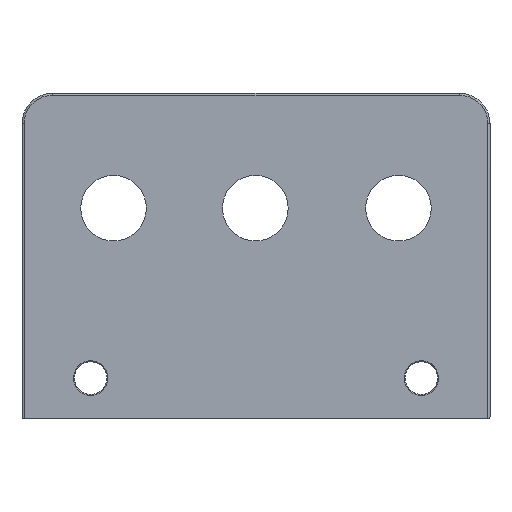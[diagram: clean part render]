
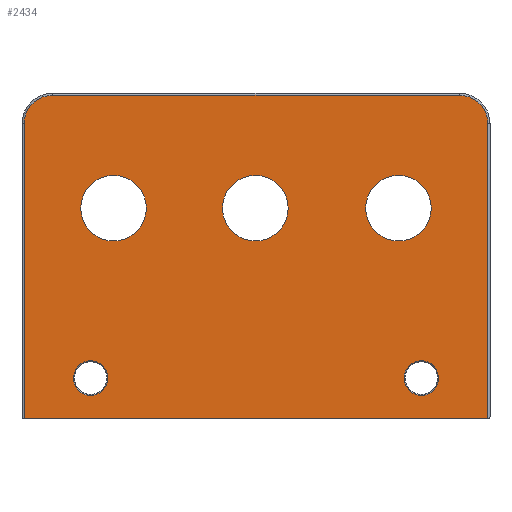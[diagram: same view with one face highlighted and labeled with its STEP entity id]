
A CAD part, front view. The second image highlights one B-rep face of the part: STEP entity #2434.
In plain terms, the highlighted planar face has unit normal (0, -1, 0).
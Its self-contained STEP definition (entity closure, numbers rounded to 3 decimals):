
#10 = VERTEX_POINT ( 'NONE', #2271 ) ;
#31 = AXIS2_PLACEMENT_3D ( 'NONE', #2425, #2929, #1745 ) ;
#63 = ORIENTED_EDGE ( 'NONE', *, *, #1422, .T. ) ;
#76 = CIRCLE ( 'NONE', #2748, 3.225 ) ;
#143 = DIRECTION ( 'NONE',  ( 0., 0., 1. ) ) ;
#145 = ORIENTED_EDGE ( 'NONE', *, *, #2176, .T. ) ;
#151 = ORIENTED_EDGE ( 'NONE', *, *, #2001, .T. ) ;
#153 = CARTESIAN_POINT ( 'NONE',  ( 9., -1.5, 20.7 ) ) ;
#163 = CARTESIAN_POINT ( 'NONE',  ( 39.25, -1.5, 4. ) ) ;
#205 = VERTEX_POINT ( 'NONE', #377 ) ;
#237 = EDGE_CURVE ( 'NONE', #573, #2158, #76, .T. ) ;
#252 = DIRECTION ( 'NONE',  ( -1., 0., 0. ) ) ;
#281 = CIRCLE ( 'NONE', #2002, 1.7 ) ;
#284 = CIRCLE ( 'NONE', #2612, 3.225 ) ;
#287 = DIRECTION ( 'NONE',  ( 0., 0., 1. ) ) ;
#305 = VERTEX_POINT ( 'NONE', #2336 ) ;
#325 = CARTESIAN_POINT ( 'NONE',  ( 0.2, -1.5, 0. ) ) ;
#355 = DIRECTION ( 'NONE',  ( 1., 0., 0. ) ) ;
#377 = CARTESIAN_POINT ( 'NONE',  ( 45.8, -1.5, 0. ) ) ;
#382 = EDGE_CURVE ( 'NONE', #305, #1889, #2372, .T. ) ;
#394 = EDGE_LOOP ( 'NONE', ( #1709, #2887 ) ) ;
#466 = VERTEX_POINT ( 'NONE', #1029 ) ;
#467 = FACE_BOUND ( 'NONE', #394, .T. ) ;
#494 = VERTEX_POINT ( 'NONE', #325 ) ;
#496 = CARTESIAN_POINT ( 'NONE',  ( 3., -1.5, 29. ) ) ;
#508 = VERTEX_POINT ( 'NONE', #2233 ) ;
#530 = AXIS2_PLACEMENT_3D ( 'NONE', #2942, #2494, #2241 ) ;
#538 = DIRECTION ( 'NONE',  ( 0., -1., 0. ) ) ;
#573 = VERTEX_POINT ( 'NONE', #2765 ) ;
#575 = CARTESIAN_POINT ( 'NONE',  ( 0., -1.5, 0. ) ) ;
#603 = DIRECTION ( 'NONE',  ( 0., 0., 1. ) ) ;
#613 = DIRECTION ( 'NONE',  ( 0., 0., 1. ) ) ;
#629 = VERTEX_POINT ( 'NONE', #1482 ) ;
#634 = FACE_OUTER_BOUND ( 'NONE', #2424, .T. ) ;
#657 = ORIENTED_EDGE ( 'NONE', *, *, #2476, .F. ) ;
#659 = DIRECTION ( 'NONE',  ( 0., 1., 0. ) ) ;
#667 = VECTOR ( 'NONE', #252, 1000. ) ;
#681 = AXIS2_PLACEMENT_3D ( 'NONE', #1645, #1247, #2609 ) ;
#740 = AXIS2_PLACEMENT_3D ( 'NONE', #1163, #939, #2098 ) ;
#750 = EDGE_CURVE ( 'NONE', #1889, #10, #2296, .T. ) ;
#800 = EDGE_LOOP ( 'NONE', ( #1990, #2481 ) ) ;
#820 = CIRCLE ( 'NONE', #2393, 1.7 ) ;
#838 = FACE_BOUND ( 'NONE', #2559, .T. ) ;
#866 = EDGE_CURVE ( 'NONE', #2158, #573, #3056, .T. ) ;
#880 = ORIENTED_EDGE ( 'NONE', *, *, #1151, .T. ) ;
#901 = VERTEX_POINT ( 'NONE', #2240 ) ;
#939 = DIRECTION ( 'NONE',  ( 0., -1., 0. ) ) ;
#962 = CARTESIAN_POINT ( 'NONE',  ( 6.75, -1.5, 2.3 ) ) ;
#989 = CARTESIAN_POINT ( 'NONE',  ( 3., -1.5, 31.8 ) ) ;
#996 = EDGE_CURVE ( 'NONE', #10, #494, #1046, .T. ) ;
#1029 = CARTESIAN_POINT ( 'NONE',  ( 22.939, -1.5, 23.925 ) ) ;
#1043 = LINE ( 'NONE', #575, #3078 ) ;
#1046 = LINE ( 'NONE', #2699, #1449 ) ;
#1052 = CARTESIAN_POINT ( 'NONE',  ( 6.75, -1.5, 4. ) ) ;
#1086 = LINE ( 'NONE', #2790, #1321 ) ;
#1130 = CARTESIAN_POINT ( 'NONE',  ( 39.25, -1.5, 4. ) ) ;
#1151 = EDGE_CURVE ( 'NONE', #508, #1285, #820, .T. ) ;
#1163 = CARTESIAN_POINT ( 'NONE',  ( 22.939, -1.5, 20.7 ) ) ;
#1169 = FACE_BOUND ( 'NONE', #2235, .T. ) ;
#1243 = CARTESIAN_POINT ( 'NONE',  ( 6.75, -1.5, 4. ) ) ;
#1247 = DIRECTION ( 'NONE',  ( 0., -1., 0. ) ) ;
#1257 = DIRECTION ( 'NONE',  ( 0., 0., 1. ) ) ;
#1274 = CIRCLE ( 'NONE', #530, 3.225 ) ;
#1285 = VERTEX_POINT ( 'NONE', #2935 ) ;
#1306 = DIRECTION ( 'NONE',  ( 0., 1., 0. ) ) ;
#1321 = VECTOR ( 'NONE', #143, 1000. ) ;
#1324 = AXIS2_PLACEMENT_3D ( 'NONE', #2619, #2842, #2858 ) ;
#1350 = CARTESIAN_POINT ( 'NONE',  ( 3., -1.5, 31.8 ) ) ;
#1412 = FACE_BOUND ( 'NONE', #800, .T. ) ;
#1422 = EDGE_CURVE ( 'NONE', #205, #629, #1086, .T. ) ;
#1445 = ORIENTED_EDGE ( 'NONE', *, *, #996, .T. ) ;
#1449 = VECTOR ( 'NONE', #1770, 1000. ) ;
#1482 = CARTESIAN_POINT ( 'NONE',  ( 45.8, -1.5, 29. ) ) ;
#1511 = AXIS2_PLACEMENT_3D ( 'NONE', #1052, #2969, #1257 ) ;
#1517 = DIRECTION ( 'NONE',  ( 0., 0., 1. ) ) ;
#1522 = VERTEX_POINT ( 'NONE', #2600 ) ;
#1528 = EDGE_CURVE ( 'NONE', #2445, #2292, #1274, .T. ) ;
#1610 = CIRCLE ( 'NONE', #681, 3.225 ) ;
#1643 = ORIENTED_EDGE ( 'NONE', *, *, #237, .T. ) ;
#1645 = CARTESIAN_POINT ( 'NONE',  ( 37., -1.5, 20.7 ) ) ;
#1709 = ORIENTED_EDGE ( 'NONE', *, *, #2788, .T. ) ;
#1745 = DIRECTION ( 'NONE',  ( 0., 0., 1. ) ) ;
#1750 = AXIS2_PLACEMENT_3D ( 'NONE', #496, #538, #2361 ) ;
#1753 = CIRCLE ( 'NONE', #1324, 2.8 ) ;
#1770 = DIRECTION ( 'NONE',  ( 0., 0., -1. ) ) ;
#1777 = DIRECTION ( 'NONE',  ( 0., -1., 0. ) ) ;
#1781 = CARTESIAN_POINT ( 'NONE',  ( 9., -1.5, 17.475 ) ) ;
#1810 = DIRECTION ( 'NONE',  ( 0., 1., 0. ) ) ;
#1815 = AXIS2_PLACEMENT_3D ( 'NONE', #2726, #3073, #2355 ) ;
#1818 = CIRCLE ( 'NONE', #740, 3.225 ) ;
#1830 = ORIENTED_EDGE ( 'NONE', *, *, #750, .T. ) ;
#1889 = VERTEX_POINT ( 'NONE', #1350 ) ;
#1990 = ORIENTED_EDGE ( 'NONE', *, *, #2532, .F. ) ;
#2001 = EDGE_CURVE ( 'NONE', #629, #305, #1753, .T. ) ;
#2002 = AXIS2_PLACEMENT_3D ( 'NONE', #1243, #1306, #1517 ) ;
#2015 = CARTESIAN_POINT ( 'NONE',  ( 22.939, -1.5, 20.7 ) ) ;
#2022 = DIRECTION ( 'NONE',  ( 0., 0., 1. ) ) ;
#2040 = EDGE_CURVE ( 'NONE', #901, #2306, #281, .T. ) ;
#2075 = EDGE_LOOP ( 'NONE', ( #145, #880 ) ) ;
#2098 = DIRECTION ( 'NONE',  ( 0., 0., 1. ) ) ;
#2104 = PLANE ( 'NONE',  #1815 ) ;
#2158 = VERTEX_POINT ( 'NONE', #1781 ) ;
#2176 = EDGE_CURVE ( 'NONE', #1285, #508, #3016, .T. ) ;
#2233 = CARTESIAN_POINT ( 'NONE',  ( 39.25, -1.5, 5.7 ) ) ;
#2235 = EDGE_LOOP ( 'NONE', ( #657, #2575 ) ) ;
#2240 = CARTESIAN_POINT ( 'NONE',  ( 6.75, -1.5, 5.7 ) ) ;
#2241 = DIRECTION ( 'NONE',  ( 0., 0., 1. ) ) ;
#2271 = CARTESIAN_POINT ( 'NONE',  ( 0.2, -1.5, 29. ) ) ;
#2277 = FACE_BOUND ( 'NONE', #2075, .T. ) ;
#2292 = VERTEX_POINT ( 'NONE', #2565 ) ;
#2296 = CIRCLE ( 'NONE', #1750, 2.8 ) ;
#2306 = VERTEX_POINT ( 'NONE', #962 ) ;
#2336 = CARTESIAN_POINT ( 'NONE',  ( 43., -1.5, 31.8 ) ) ;
#2355 = DIRECTION ( 'NONE',  ( 1., 0., 0. ) ) ;
#2361 = DIRECTION ( 'NONE',  ( 0., 0., 1. ) ) ;
#2372 = LINE ( 'NONE', #989, #667 ) ;
#2393 = AXIS2_PLACEMENT_3D ( 'NONE', #163, #1810, #2022 ) ;
#2403 = DIRECTION ( 'NONE',  ( 0., 1., 0. ) ) ;
#2424 = EDGE_LOOP ( 'NONE', ( #2534, #63, #151, #2737, #1830, #1445 ) ) ;
#2425 = CARTESIAN_POINT ( 'NONE',  ( 9., -1.5, 20.7 ) ) ;
#2434 = ADVANCED_FACE ( 'NONE', ( #634, #2277, #467, #838, #1169, #1412 ), #2104, .F. ) ;
#2445 = VERTEX_POINT ( 'NONE', #2772 ) ;
#2449 = AXIS2_PLACEMENT_3D ( 'NONE', #1130, #659, #603 ) ;
#2476 = EDGE_CURVE ( 'NONE', #466, #1522, #284, .T. ) ;
#2481 = ORIENTED_EDGE ( 'NONE', *, *, #1528, .F. ) ;
#2494 = DIRECTION ( 'NONE',  ( 0., -1., 0. ) ) ;
#2532 = EDGE_CURVE ( 'NONE', #2292, #2445, #1610, .T. ) ;
#2534 = ORIENTED_EDGE ( 'NONE', *, *, #2579, .T. ) ;
#2559 = EDGE_LOOP ( 'NONE', ( #1643, #2877 ) ) ;
#2565 = CARTESIAN_POINT ( 'NONE',  ( 37., -1.5, 23.925 ) ) ;
#2575 = ORIENTED_EDGE ( 'NONE', *, *, #2676, .F. ) ;
#2579 = EDGE_CURVE ( 'NONE', #494, #205, #1043, .T. ) ;
#2600 = CARTESIAN_POINT ( 'NONE',  ( 22.939, -1.5, 17.475 ) ) ;
#2609 = DIRECTION ( 'NONE',  ( 0., 0., 1. ) ) ;
#2612 = AXIS2_PLACEMENT_3D ( 'NONE', #2015, #1777, #613 ) ;
#2616 = CIRCLE ( 'NONE', #1511, 1.7 ) ;
#2619 = CARTESIAN_POINT ( 'NONE',  ( 43., -1.5, 29. ) ) ;
#2676 = EDGE_CURVE ( 'NONE', #1522, #466, #1818, .T. ) ;
#2699 = CARTESIAN_POINT ( 'NONE',  ( 0.2, -1.5, 8. ) ) ;
#2726 = CARTESIAN_POINT ( 'NONE',  ( 0., -1.5, 8. ) ) ;
#2737 = ORIENTED_EDGE ( 'NONE', *, *, #382, .T. ) ;
#2748 = AXIS2_PLACEMENT_3D ( 'NONE', #153, #2403, #287 ) ;
#2765 = CARTESIAN_POINT ( 'NONE',  ( 9., -1.5, 23.925 ) ) ;
#2772 = CARTESIAN_POINT ( 'NONE',  ( 37., -1.5, 17.475 ) ) ;
#2788 = EDGE_CURVE ( 'NONE', #2306, #901, #2616, .T. ) ;
#2790 = CARTESIAN_POINT ( 'NONE',  ( 45.8, -1.5, 8. ) ) ;
#2842 = DIRECTION ( 'NONE',  ( 0., -1., 0. ) ) ;
#2858 = DIRECTION ( 'NONE',  ( 0., 0., 1. ) ) ;
#2877 = ORIENTED_EDGE ( 'NONE', *, *, #866, .T. ) ;
#2887 = ORIENTED_EDGE ( 'NONE', *, *, #2040, .T. ) ;
#2929 = DIRECTION ( 'NONE',  ( 0., 1., 0. ) ) ;
#2935 = CARTESIAN_POINT ( 'NONE',  ( 39.25, -1.5, 2.3 ) ) ;
#2942 = CARTESIAN_POINT ( 'NONE',  ( 37., -1.5, 20.7 ) ) ;
#2969 = DIRECTION ( 'NONE',  ( 0., 1., 0. ) ) ;
#3016 = CIRCLE ( 'NONE', #2449, 1.7 ) ;
#3056 = CIRCLE ( 'NONE', #31, 3.225 ) ;
#3073 = DIRECTION ( 'NONE',  ( 0., 1., 0. ) ) ;
#3078 = VECTOR ( 'NONE', #355, 1000. ) ;
